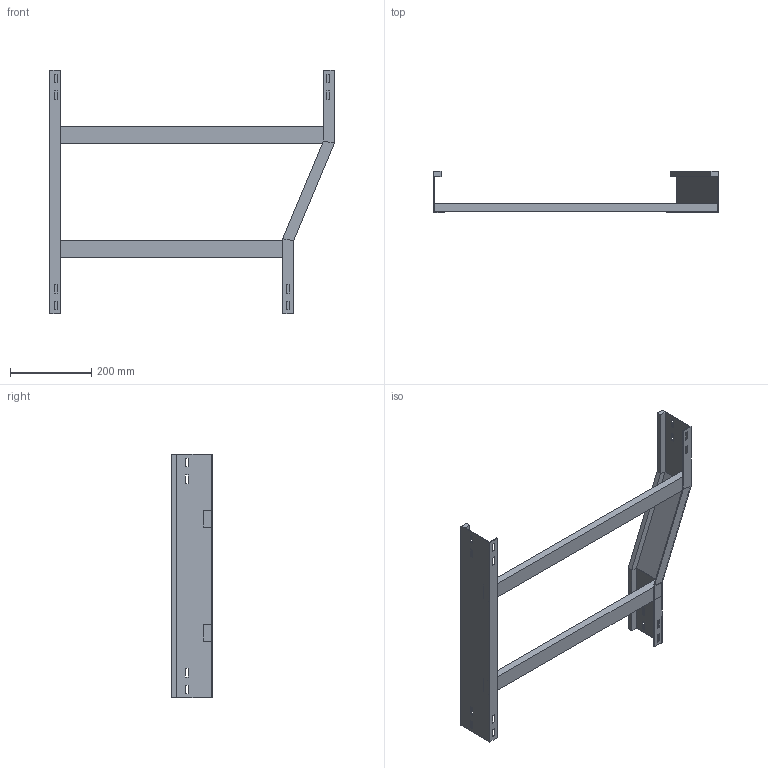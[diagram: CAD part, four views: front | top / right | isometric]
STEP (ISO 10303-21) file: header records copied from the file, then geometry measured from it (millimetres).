
FILE_DESCRIPTION (( 'STEP AP214' ), '1' );
FILE_NAME ('B2X22B6D700XX.step', '2025-09-02T17:19:52', ( '' ), ( '' ), 'SwSTEP 2.0', 'SolidWorks 2023', '' );
FILE_SCHEMA (( 'AUTOMOTIVE_DESIGN' ));
Length unit declared in the file: millimetre
Products named in the file (5): SPONDA DRITTA_H100; TRAVERSINO_600; TRAVERSINO_700; B2X22B6D700XX; SPONDA RID. SX 700-600_H100
Assembly tree (4 placements, depth 2):
  B2X22B6D700XX
    SPONDA DRITTA_H100
    TRAVERSINO_600
    TRAVERSINO_700
    SPONDA RID. SX 700-600_H100
Bounding box: 700 x 100 x 600 mm (x, y, z)
Volume: 1580832 mm3; surface area: 507188 mm2
Topology: 4 solids, 4 shells, 112 faces, 296 edges, 192 vertices
Faces by surface type: plane 112
Entity records: 3590 total; most frequent: CARTESIAN_POINT 607, ORIENTED_EDGE 592, DIRECTION 534, EDGE_CURVE 296, LINE 296, VECTOR 296, VERTEX_POINT 192, EDGE_LOOP 144
